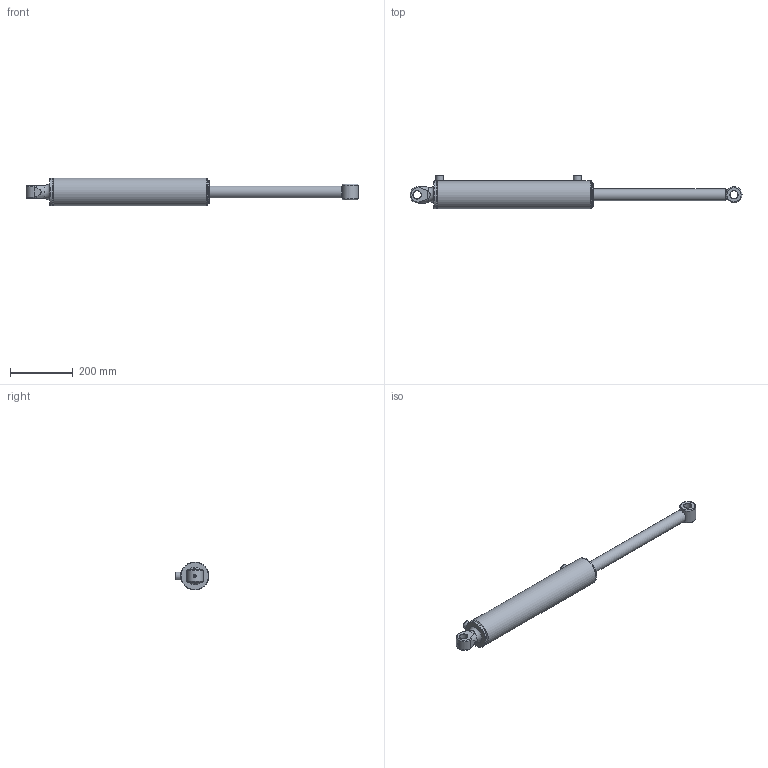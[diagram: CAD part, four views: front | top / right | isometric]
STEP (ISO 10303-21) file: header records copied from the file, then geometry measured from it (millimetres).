
FILE_DESCRIPTION(/* description */ ('Alibre Inc.'),/* implementation_level */ '2;1');
FILE_NAME(/* name */ 'export0',/* time_stamp */ '2016-08-16T10:01:14+12:00',/* author */ (''),/* organization */ (''),/* preprocessor_version */ 'ST-DEVELOPER v14',/* originating_system */ 'Alibre',/* authorisation */ '');
FILE_SCHEMA (('AUTOMOTIVE_DESIGN'));
Length unit declared in the file: centimetre
Bounding box: 1055.13 x 106.9 x 88.9 mm (x, y, z)
Volume: 1891872.8 mm3; surface area: 432622.4 mm2
Topology: 12 solids, 12 shells, 157 faces, 332 edges, 209 vertices
Faces by surface type: cylinder 61, plane 57, cone 23, torus 13, sphere 2, bspline 1
Full cylindrical faces by diameter (mm): 7 x1, 8.3 x2, 8.8 x1, 9.525 x2, 15.25 x2, 23 x1, 23.622 x1, 25 x2, 25.4 x2, 25.451 x1, 38.1 x2, 38.18 x2, 44.45 x1, 46.9 x2, 47.62 x2, 50.8 x1, 60.33 x1, 69.2 x1, 70.36 x1, 71.6 x2, 72.57 x2, 72.87 x1, 74.83 x2, 76.09 x2, 76.1 x1, 76.2 x2, 79.4 x1, 88.9 x3
Entity records: 4365 total; most frequent: CARTESIAN_POINT 1210, DIRECTION 599, ORIENTED_EDGE 456, AXIS2_PLACEMENT_3D 310, FACE_BOUND 271, EDGE_LOOP 269, EDGE_CURVE 228, VERTEX_POINT 191
